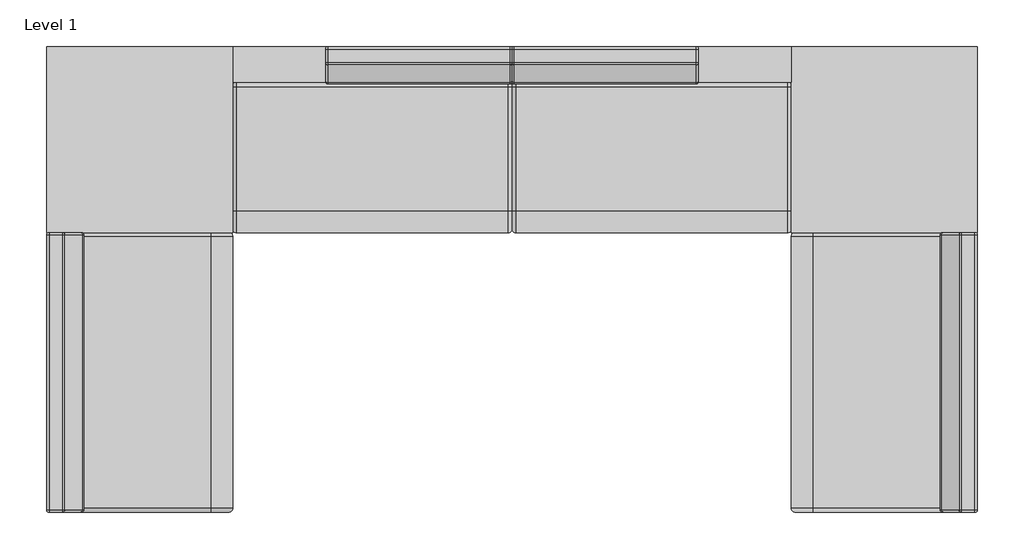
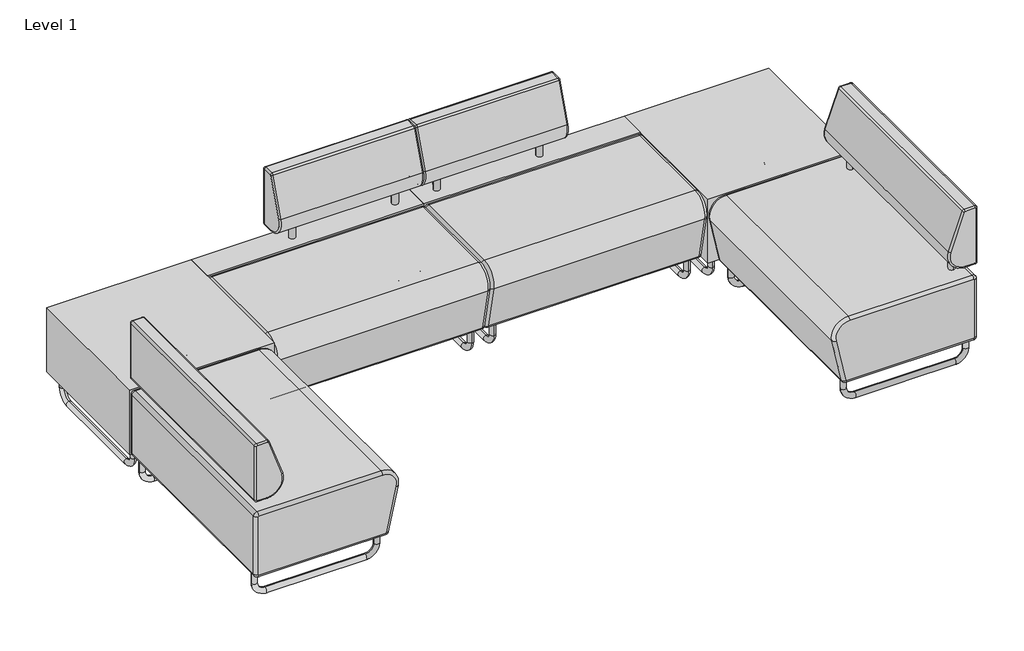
# One storey: 6 furniture elements.
"""IFC4 building model written with IfcOpenShell, lengths in millimetres."""

from ifc_helpers import new_model, si_unit, origin, place, context, project, spatial, transform, mapped, element, save
from components import lounge_seat_ki_hub_0f860df9, lounge_seat_ki_hub_a14865a0, lounge_seat_ki_hub_ef02d1cb, lounge_table_ki_hub_no_power_aac6d2b9

model = new_model("IFC4")

# Units and contexts
model_context = context("Model", 3, world=origin())
ifc_project = project(units=[si_unit("LENGTHUNIT", "METRE", prefix="MILLI")], contexts=[model_context])

# Site, building, storey
site = spatial("IfcSite", under=ifc_project)
building = spatial("IfcBuilding", under=site)
storey = spatial("IfcBuildingStorey", under=building, Name="Level 1", Elevation=0.0)

# Furniture
placement = place(None, origin())
lounge_seat_ki_hub_shape = lounge_seat_ki_hub_0f860df9(model_context)
element("IfcFurniture", 1, ObjectType="Lounge-Seat-KI-Hub : 39\"W, Armless, Contrast", at=placement, inside=storey, context=model_context, shape_type="MappedRepresentation", body=[
    mapped(lounge_seat_ki_hub_shape, transform((2556.0727544, 2289.8808874, 0.0), x_axis=(0.0, 1.0, 0.0), y_axis=(-1.0, 0.0, 0.0), z_axis=(0.0, 0.0, 1.0))),
])
element("IfcFurniture", 2, ObjectType="Lounge-Seat-KI-Hub : 39\"W, Armless, Contrast", at=placement, inside=storey, context=model_context, shape_type="MappedRepresentation", body=[
    mapped(lounge_seat_ki_hub_shape, transform((5197.6727544, 2289.8808874, 0.0), x_axis=(0.0, -1.0, 0.0), y_axis=(1.0, 0.0, 0.0), z_axis=(0.0, 0.0, 1.0))),
])
lounge_seat_ki_hub_2_shape = lounge_seat_ki_hub_a14865a0(model_context)
element("IfcFurniture", 3, ObjectType="Lounge-Seat-KI-Hub : 39\"W, Laminate, Contrast, Back L", at=placement, inside=storey, context=model_context, shape_type="MappedRepresentation", body=[
    mapped(lounge_seat_ki_hub_2_shape, transform((4372.1727544, 3115.3808874, 0.0), x_axis=(1.0, 0.0, 0.0), y_axis=(0.0, 1.0, 0.0), z_axis=(0.0, 0.0, 1.0))),
])
lounge_seat_ki_hub_3_shape = lounge_seat_ki_hub_ef02d1cb(model_context)
element("IfcFurniture", 4, ObjectType="Lounge-Seat-KI-Hub : 39\"W, Laminate, Contrast, Back R", at=placement, inside=storey, context=model_context, shape_type="MappedRepresentation", body=[
    mapped(lounge_seat_ki_hub_3_shape, transform((3381.5727544, 3115.3808874, 0.0), x_axis=(1.0, 0.0, 0.0), y_axis=(0.0, 1.0, 0.0), z_axis=(0.0, 0.0, 1.0))),
])
lounge_table_ki_hub_no_power_shape = lounge_table_ki_hub_no_power_aac6d2b9(model_context)
element("IfcFurniture", 5, ObjectType="Lounge-Table-KI-Hub : No Power", at=placement, inside=storey, context=model_context, shape_type="MappedRepresentation", body=[
    mapped(lounge_table_ki_hub_no_power_shape, transform((2556.0727544, 3115.3808874, 0.0), x_axis=(1.0, 0.0, 0.0), y_axis=(0.0, 1.0, 0.0), z_axis=(0.0, 0.0, 1.0))),
])
element("IfcFurniture", 6, ObjectType="Lounge-Table-KI-Hub : No Power", at=placement, inside=storey, context=model_context, shape_type="MappedRepresentation", body=[
    mapped(lounge_table_ki_hub_no_power_shape, transform((5197.6727544, 3115.3808874, 0.0), x_axis=(1.0, 0.0, 0.0), y_axis=(0.0, 1.0, 0.0), z_axis=(0.0, 0.0, 1.0))),
])

save(model, "model.ifc")
